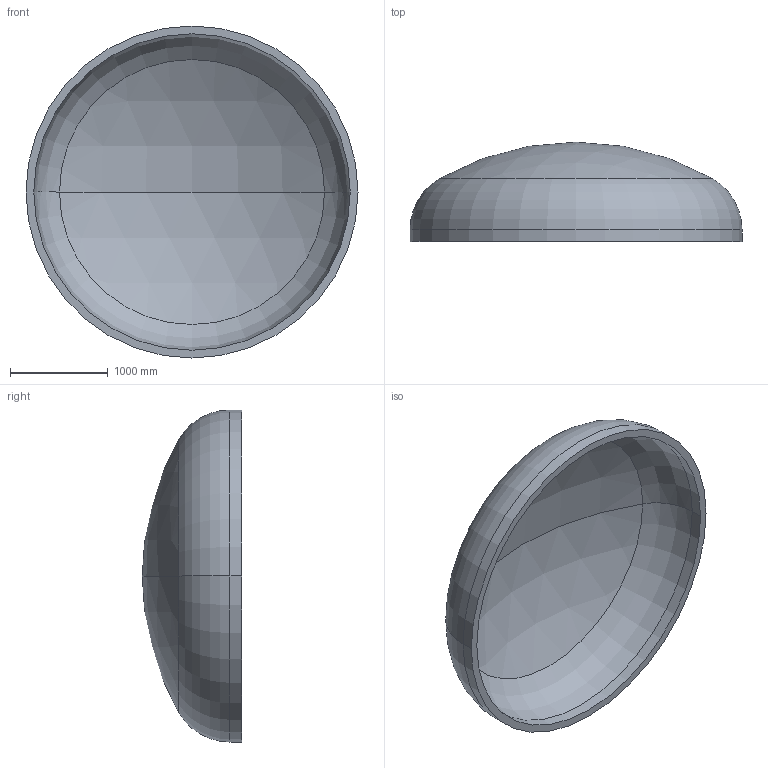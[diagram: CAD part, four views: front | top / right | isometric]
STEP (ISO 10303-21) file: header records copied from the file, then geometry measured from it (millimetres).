
FILE_DESCRIPTION (( 'STEP AP203' ), '1' );
FILE_NAME ('DIN 28013 Korbbogenform_-_Boden DIN 28013 - 3400 x 120 - I - s=80.step', '2016-07-01T19:45:52', ( '' ), ( '' ), 'SwSTEP 2.0', 'SolidWorks 2013', '' );
FILE_SCHEMA (( 'CONFIG_CONTROL_DESIGN' ));
Length unit declared in the file: millimetre
Products named in the file (1): DIN 28013 Korbbogenform_-_Boden DIN 28013 - 3400 x 120 - I - s=80
Bounding box: 3400 x 1017.63 x 3400 mm (x, y, z)
Volume: 1076008359.8 mm3; surface area: 27748011.1 mm2
Topology: 1 solids, 1 shells, 13 faces, 24 edges, 14 vertices
Faces by surface type: torus 4, cylinder 4, sphere 4, plane 1
Entity records: 407 total; most frequent: DIRECTION 72, CARTESIAN_POINT 52, ORIENTED_EDGE 48, AXIS2_PLACEMENT_3D 34, EDGE_CURVE 24, CIRCLE 20, EDGE_LOOP 14, VERTEX_POINT 14
